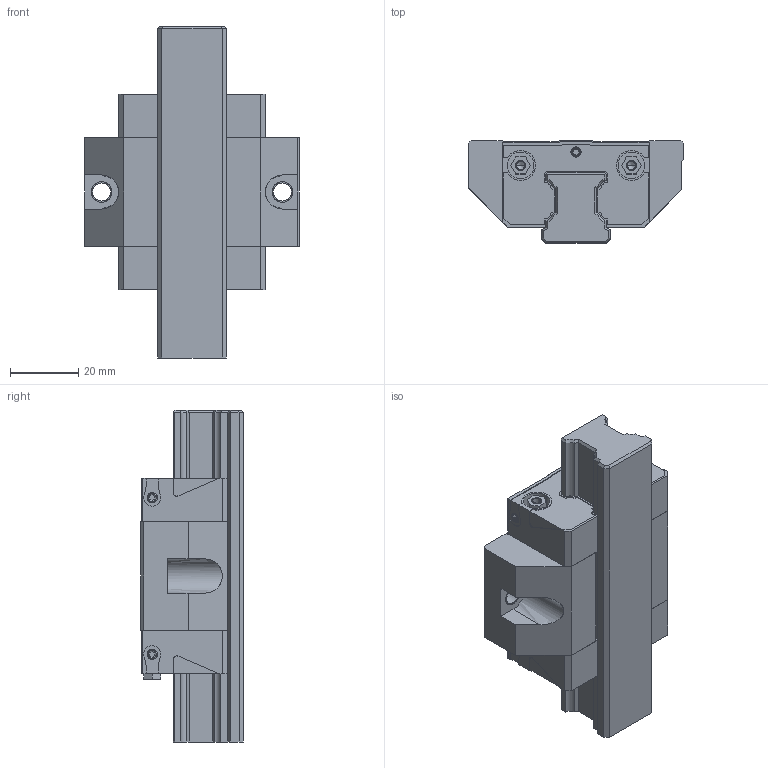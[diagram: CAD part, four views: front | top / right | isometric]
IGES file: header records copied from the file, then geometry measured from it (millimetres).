
Start section: 3D InterOp IGES (v. 2019 1.0.2), Spatial Corp. Copyright (c) 1999-2017.
Global section: file name: R1665_size20.igs; native system: Spatial Corp.; preprocessor: 3D InterOp GENERIC/IGES 3.0; author: Noname; organization: Noname; date: 20220629.125023; units: millimetre
Bounding box: 63 x 30 x 97.3 mm (x, y, z)
Surface area: 29586.4 mm2 (no closed solid volume)
Topology: 0 solids, 0 shells, 504 faces, 2706 edges, 2684 vertices
Faces by surface type: extrusion 303, revolution 201
